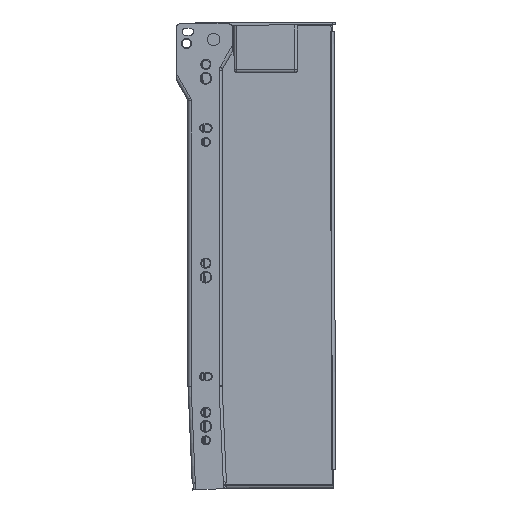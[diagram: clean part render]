
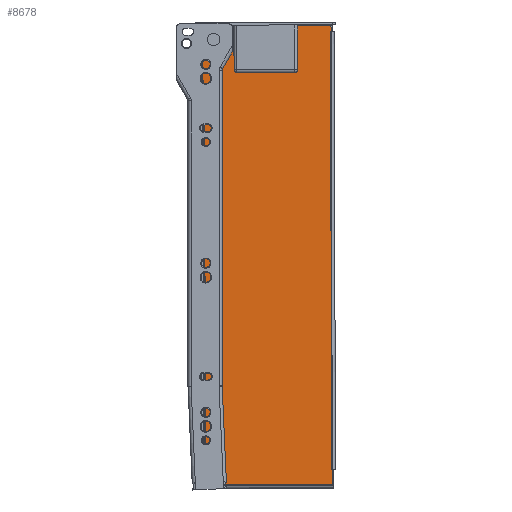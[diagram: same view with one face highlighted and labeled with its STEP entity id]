
A CAD part, left-side view. The second image highlights one B-rep face of the part: STEP entity #8678.
In plain terms, the highlighted planar face has unit normal (-1, 0, 0) as drawn and (0, 0, -1) by its records, which use the part's own axes.
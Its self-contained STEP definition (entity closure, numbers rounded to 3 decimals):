
#714=LINE('',#13942,#1424);
#718=LINE('',#13960,#1428);
#719=LINE('',#13962,#1429);
#720=LINE('',#13964,#1430);
#721=LINE('',#13966,#1431);
#722=LINE('',#13968,#1432);
#723=LINE('',#13972,#1433);
#724=LINE('',#13975,#1434);
#1424=VECTOR('',#11287,85.928);
#1428=VECTOR('',#11297,296.2);
#1429=VECTOR('',#11298,84.034);
#1430=VECTOR('',#11299,55.801);
#1431=VECTOR('',#11300,219.152);
#1432=VECTOR('',#11301,1.6);
#1433=VECTOR('',#11304,1.3);
#1434=VECTOR('',#11307,15.5);
#1845=PLANE('',#9431);
#2062=FACE_BOUND('',#2990,.T.);
#2406=FACE_OUTER_BOUND('',#2989,.T.);
#2989=EDGE_LOOP('',(#6890,#6891,#6892,#6893,#6894,#6895,#6896,#6897,#6898,
#6899,#6900));
#2990=EDGE_LOOP('',(#6901));
#3500=CIRCLE('',#9430,2.);
#3501=CIRCLE('',#9432,1.2);
#3502=CIRCLE('',#9433,2.);
#3503=CIRCLE('',#9434,3.5);
#4116=VERTEX_POINT('',#13936);
#4117=VERTEX_POINT('',#13941);
#4119=VERTEX_POINT('',#13954);
#4120=VERTEX_POINT('',#13959);
#4121=VERTEX_POINT('',#13961);
#4122=VERTEX_POINT('',#13963);
#4123=VERTEX_POINT('',#13965);
#4124=VERTEX_POINT('',#13967);
#4125=VERTEX_POINT('',#13969);
#4126=VERTEX_POINT('',#13971);
#4127=VERTEX_POINT('',#13973);
#4128=VERTEX_POINT('',#13976);
#5106=EDGE_CURVE('',#4116,#4117,#714,.T.);
#5109=EDGE_CURVE('',#4117,#4119,#3500,.T.);
#5112=EDGE_CURVE('',#4120,#4116,#718,.T.);
#5113=EDGE_CURVE('',#4120,#4121,#719,.T.);
#5114=EDGE_CURVE('',#4122,#4121,#720,.T.);
#5115=EDGE_CURVE('',#4123,#4122,#721,.T.);
#5116=EDGE_CURVE('',#4123,#4124,#722,.T.);
#5117=EDGE_CURVE('',#4125,#4124,#3501,.T.);
#5118=EDGE_CURVE('',#4126,#4125,#723,.T.);
#5119=EDGE_CURVE('',#4127,#4126,#3502,.T.);
#5120=EDGE_CURVE('',#4119,#4127,#724,.T.);
#5121=EDGE_CURVE('',#4128,#4128,#3503,.T.);
#6890=ORIENTED_EDGE('',*,*,#5106,.F.);
#6891=ORIENTED_EDGE('',*,*,#5112,.F.);
#6892=ORIENTED_EDGE('',*,*,#5113,.T.);
#6893=ORIENTED_EDGE('',*,*,#5114,.F.);
#6894=ORIENTED_EDGE('',*,*,#5115,.F.);
#6895=ORIENTED_EDGE('',*,*,#5116,.T.);
#6896=ORIENTED_EDGE('',*,*,#5117,.F.);
#6897=ORIENTED_EDGE('',*,*,#5118,.F.);
#6898=ORIENTED_EDGE('',*,*,#5119,.F.);
#6899=ORIENTED_EDGE('',*,*,#5120,.F.);
#6900=ORIENTED_EDGE('',*,*,#5109,.F.);
#6901=ORIENTED_EDGE('',*,*,#5121,.T.);
#8678=ADVANCED_FACE('',(#2406,#2062),#1845,.F.);
#9430=AXIS2_PLACEMENT_3D('',#13955,#11291,#11292);
#9431=AXIS2_PLACEMENT_3D('',#13958,#11295,#11296);
#9432=AXIS2_PLACEMENT_3D('',#13970,#11302,#11303);
#9433=AXIS2_PLACEMENT_3D('',#13974,#11305,#11306);
#9434=AXIS2_PLACEMENT_3D('',#13977,#11308,#11309);
#11287=DIRECTION('',(0.,1.,0.));
#11291=DIRECTION('center_axis',(0.,0.,1.));
#11292=DIRECTION('ref_axis',(1.,0.,0.));
#11295=DIRECTION('center_axis',(0.,0.,1.));
#11296=DIRECTION('ref_axis',(1.,0.,0.));
#11297=DIRECTION('',(1.,0.,0.));
#11298=DIRECTION('',(0.,1.,0.));
#11299=DIRECTION('',(-0.999,0.044,0.));
#11300=DIRECTION('',(-1.,0.,0.));
#11301=DIRECTION('',(0.,1.,0.));
#11302=DIRECTION('center_axis',(0.,0.,-1.));
#11303=DIRECTION('ref_axis',(1.,0.,0.));
#11304=DIRECTION('',(0.,-1.,0.));
#11305=DIRECTION('center_axis',(0.,0.,1.));
#11306=DIRECTION('ref_axis',(0.,1.,0.));
#11307=DIRECTION('',(-1.,0.,0.));
#11308=DIRECTION('center_axis',(0.,0.,1.));
#11309=DIRECTION('ref_axis',(-1.,0.,0.));
#13936=CARTESIAN_POINT('',(9.4,-79.,0.));
#13941=CARTESIAN_POINT('',(9.4,6.928,0.));
#13942=CARTESIAN_POINT('',(9.4,-17.896,0.));
#13954=CARTESIAN_POINT('',(8.,7.5,0.));
#13955=CARTESIAN_POINT('Origin',(8.,5.5,0.));
#13958=CARTESIAN_POINT('Origin',(-139.86,-37.492,0.));
#13959=CARTESIAN_POINT('',(-286.8,-79.,0.));
#13960=CARTESIAN_POINT('',(-214.93,-79.,0.));
#13961=CARTESIAN_POINT('',(-286.8,5.034,0.));
#13962=CARTESIAN_POINT('',(-286.8,-14.958,0.));
#13963=CARTESIAN_POINT('',(-231.052,2.6,0.));
#13964=CARTESIAN_POINT('',(-184.682,0.575,0.));
#13965=CARTESIAN_POINT('',(-11.9,2.6,0.));
#13966=CARTESIAN_POINT('',(-75.88,2.6,0.));
#13967=CARTESIAN_POINT('',(-11.9,4.2,0.));
#13968=CARTESIAN_POINT('',(-11.9,-16.646,0.));
#13969=CARTESIAN_POINT('',(-9.5,4.2,0.));
#13970=CARTESIAN_POINT('Origin',(-10.7,4.2,0.));
#13971=CARTESIAN_POINT('',(-9.5,5.5,0.));
#13972=CARTESIAN_POINT('',(-9.5,5.5,0.));
#13973=CARTESIAN_POINT('',(-7.5,7.5,0.));
#13974=CARTESIAN_POINT('Origin',(-7.5,5.5,0.));
#13975=CARTESIAN_POINT('',(8.,7.5,0.));
#13976=CARTESIAN_POINT('',(3.5,0.,0.));
#13977=CARTESIAN_POINT('Origin',(0.,0.,0.));
